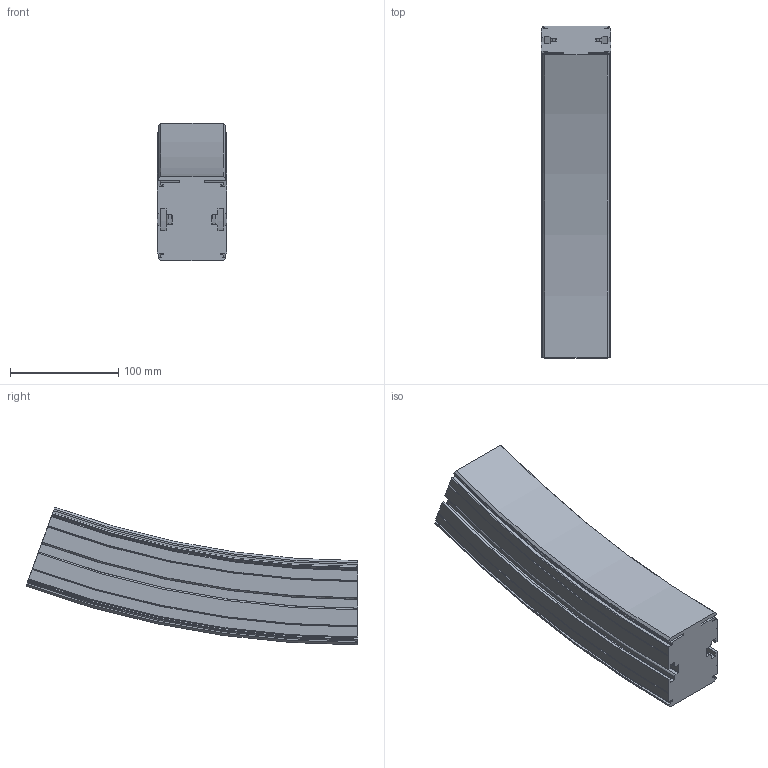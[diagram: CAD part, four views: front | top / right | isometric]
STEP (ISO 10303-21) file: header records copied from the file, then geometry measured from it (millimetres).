
FILE_DESCRIPTION(/* description */ ('VERTIKALKURVA S620 R860'),/* implementation_level */ '2;1');
FILE_NAME(/* name */ '\\carryline.intra\privat\users\mathias\Desktop\Tillfälliga filer\620-5695+620-2000-NER-01.stp',/* time_stamp */ '2018-12-06T07:03:54+01:00',/* author */ ('MD'),/* organization */ ('CARRYLINE'),/* preprocessor_version */ 'ST-DEVELOPER v17',/* originating_system */ 'Autodesk Inventor 2018',/* authorisation */ '');
FILE_SCHEMA (('AUTOMOTIVE_DESIGN { 1 0 10303 214 3 1 1 }'));
Length unit declared in the file: millimetre
Products named in the file (1): 620-5695+620-2000-NER-01
Bounding box: 64 x 307.13 x 127.45 mm (x, y, z)
Volume: 1339462.4 mm3; surface area: 152290.3 mm2
Topology: 1 solids, 1 shells, 149 faces, 426 edges, 284 vertices
Faces by surface type: plane 54, cylinder 37, torus 28, cone 16, bspline 14
Entity records: 9536 total; most frequent: CARTESIAN_POINT 5516, ORIENTED_EDGE 852, DIRECTION 836, EDGE_CURVE 426, AXIS2_PLACEMENT_3D 315, VERTEX_POINT 284, LINE 206, VECTOR 206
